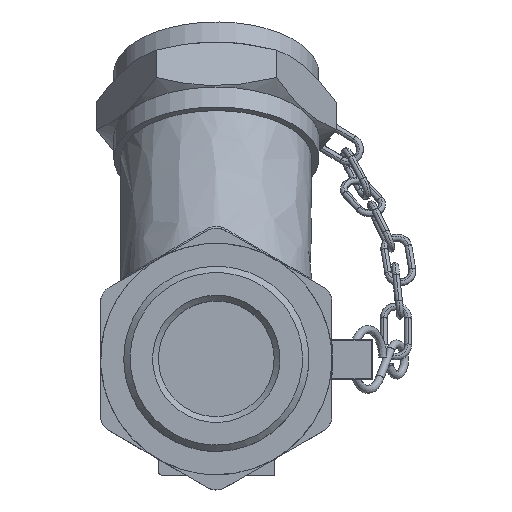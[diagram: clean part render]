
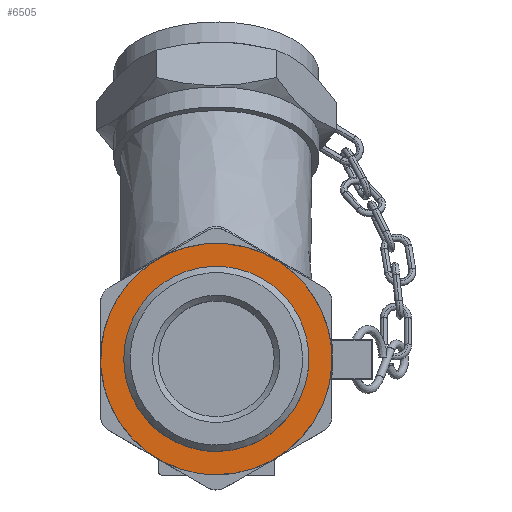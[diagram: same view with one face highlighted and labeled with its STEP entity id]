
A CAD part, top view. The second image highlights one B-rep face of the part: STEP entity #6505.
In plain terms, the highlighted free-form (B-spline) face has degree [1, 1] with [2, 2] control points.
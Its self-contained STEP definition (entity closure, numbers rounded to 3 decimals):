
#6447=CARTESIAN_POINT('V1265',(0.0,-16.0,-17.5));
#6448=VERTEX_POINT('V1265',#6447);
#6449=CARTESIAN_POINT('E241',(0.0,-16.0,-17.5));
#6450=CARTESIAN_POINT('E241',(27.713,-16.0,
   -17.5));
#6451=CARTESIAN_POINT('E241',(13.856,8.0,
   -17.5));
#6452=CARTESIAN_POINT('E241',(0.,32.0,-17.5)
   );
#6453=CARTESIAN_POINT('E241',(-13.856,8.0,
   -17.5));
#6454=CARTESIAN_POINT('E241',(-27.713,-16.0,
   -17.5));
#6455=CARTESIAN_POINT('E241',(0.0,-16.0,-17.5));
#6463=(BOUNDED_CURVE()B_SPLINE_CURVE(2,(#6449,#6450,#6451,#6452,
   #6453,#6454,#6455),.CIRCULAR_ARC.,.T.,.U.)
   B_SPLINE_CURVE_WITH_KNOTS((3,2,2,3),(0.0,55.426,
   110.851,166.277),.UNSPECIFIED.)CURVE()
   GEOMETRIC_REPRESENTATION_ITEM()RATIONAL_B_SPLINE_CURVE((1.0,
   0.5,1.0,0.5,1.0,0.5,1.0)
   )REPRESENTATION_ITEM('E241'));
#6464=EDGE_CURVE('E241',#6448,#6448,#6463,.T.);
#6476=CARTESIAN_POINT('F111',(22.0,22.0,-17.5));
#6477=CARTESIAN_POINT('F111',(-22.0,22.0,-17.5));
#6478=CARTESIAN_POINT('F111',(22.0,-22.0,-17.5));
#6479=CARTESIAN_POINT('F111',(-22.0,-22.0,-17.5));
#6480=QUASI_UNIFORM_SURFACE('F111',1,1,((#6476,#6478),(#6477,
   #6479)),.PLANE_SURF.,.F.,.F.,.U.);
#6481=CARTESIAN_POINT('V1266',(0.0,-20.0,-17.5));
#6482=VERTEX_POINT('V1266',#6481);
#6483=CARTESIAN_POINT('E243',(0.0,-20.0,-17.5));
#6484=CARTESIAN_POINT('E243',(34.641,-20.0,
   -17.5));
#6485=CARTESIAN_POINT('E243',(17.321,10.0,
   -17.5));
#6486=CARTESIAN_POINT('E243',(0.,40.0,-17.5)
   );
#6487=CARTESIAN_POINT('E243',(-17.321,10.0,
   -17.5));
#6488=CARTESIAN_POINT('E243',(-34.641,-20.0,
   -17.5));
#6489=CARTESIAN_POINT('E243',(0.0,-20.0,-17.5));
#6497=(BOUNDED_CURVE()B_SPLINE_CURVE(2,(#6483,#6484,#6485,#6486,
   #6487,#6488,#6489),.CIRCULAR_ARC.,.T.,.U.)
   B_SPLINE_CURVE_WITH_KNOTS((3,2,2,3),(0.0,0.333,
   0.667,1.0),.UNSPECIFIED.)CURVE()
   GEOMETRIC_REPRESENTATION_ITEM()RATIONAL_B_SPLINE_CURVE((1.0,
   0.5,1.0,0.5,1.0,0.5,1.0)
   )REPRESENTATION_ITEM('E243'));
#6498=EDGE_CURVE('E243',#6482,#6482,#6497,.T.);
#6499=ORIENTED_EDGE('E243',*,*,#6498,.T.);
#6500=EDGE_LOOP('F111',(#6499));
#6501=FACE_OUTER_BOUND('F111',#6500,.T.);
#6502=ORIENTED_EDGE('E241',*,*,#6464,.F.);
#6503=EDGE_LOOP('F111',(#6502));
#6504=FACE_BOUND('F111',#6503,.T.);
#6505=ADVANCED_FACE('F111',(#6501,#6504),#6480,.T.);
